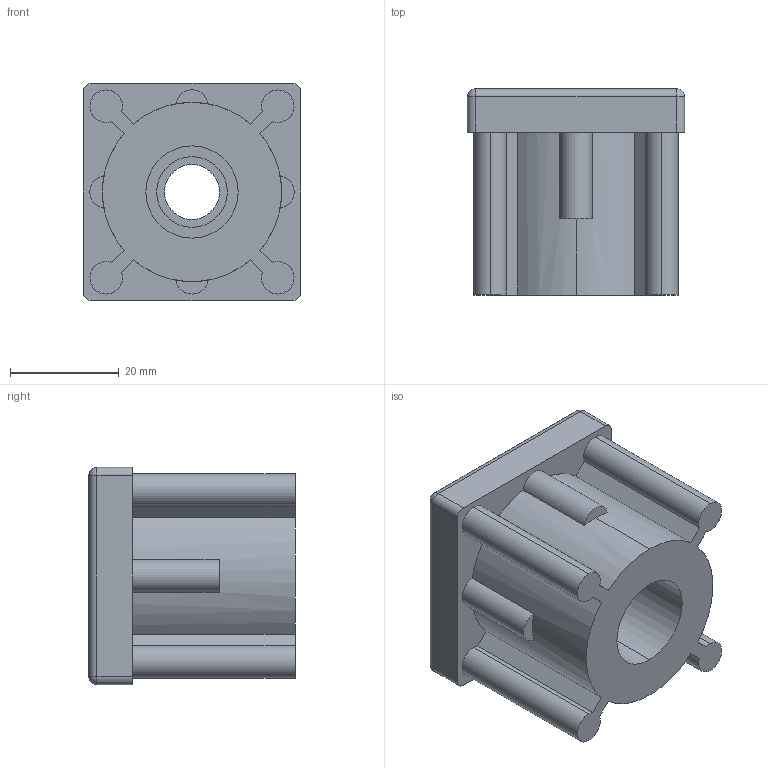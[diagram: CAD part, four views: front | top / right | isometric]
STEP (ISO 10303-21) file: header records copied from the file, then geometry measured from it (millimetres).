
FILE_DESCRIPTION (( 'STEP AP214' ), '1' );
FILE_NAME ('448-V40-V37,6-M12.step', '2025-04-09T12:16:03', ( '' ), ( '' ), 'SwSTEP 2.0', 'SolidWorks 2022', '' );
FILE_SCHEMA (( 'AUTOMOTIVE_DESIGN' ));
Length unit declared in the file: millimetre
Products named in the file (1): 448-V40-V37,6-M12
Bounding box: 40 x 38 x 40 mm (x, y, z)
Volume: 37443.9 mm3; surface area: 11523.6 mm2
Topology: 1 solids, 1 shells, 64 faces, 166 edges, 104 vertices
Faces by surface type: cylinder 38, plane 22, sphere 4
Entity records: 2036 total; most frequent: DIRECTION 376, CARTESIAN_POINT 331, ORIENTED_EDGE 324, EDGE_CURVE 162, AXIS2_PLACEMENT_3D 149, VERTEX_POINT 104, CIRCLE 84, VECTOR 78
